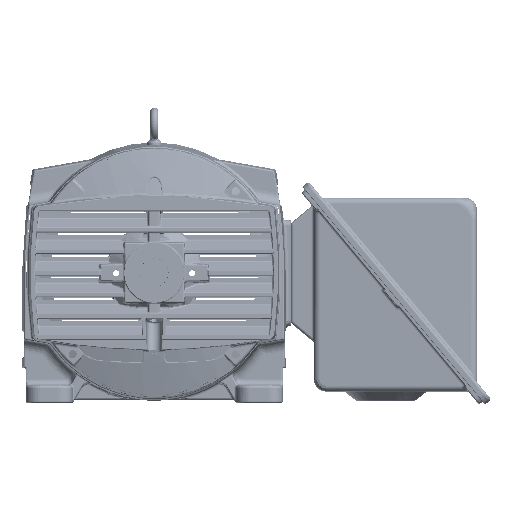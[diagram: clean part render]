
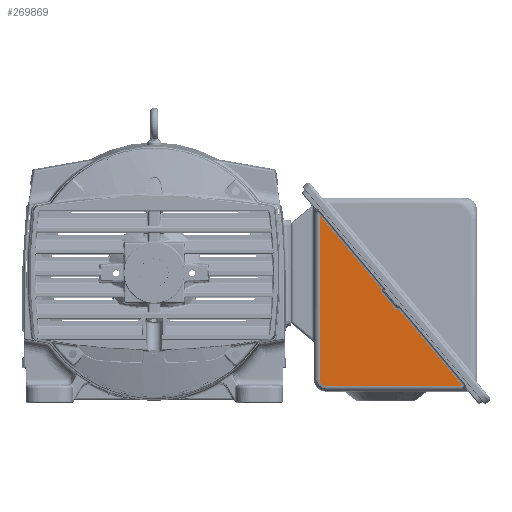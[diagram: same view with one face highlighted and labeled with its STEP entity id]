
A CAD part, top view. The second image highlights one B-rep face of the part: STEP entity #269869.
In plain terms, the highlighted planar face has unit normal (-0.02, -0.017, 1).
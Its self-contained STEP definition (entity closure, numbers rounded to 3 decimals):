
#262059=DIRECTION('',(-0.643,0.766,0.));
#262060=VECTOR('',#262059,8.138);
#262061=CARTESIAN_POINT('',(7.721,8.831,
7.924));
#262062=LINE('',#262061,#262060);
#262068=CARTESIAN_POINT('',(7.721,8.831,
7.924));
#262069=CARTESIAN_POINT('',(7.711,8.808,
7.923));
#262070=CARTESIAN_POINT('',(7.697,8.761,
7.922));
#262071=CARTESIAN_POINT('',(7.691,8.686,
7.921));
#262072=CARTESIAN_POINT('',(7.701,8.612,
7.92));
#262073=CARTESIAN_POINT('',(7.728,8.538,
7.919));
#262074=CARTESIAN_POINT('',(7.757,8.493,
7.919));
#262075=CARTESIAN_POINT('',(7.775,8.471,
7.919));
#262086=DIRECTION('',(0.643,-0.766,
0.));
#262087=VECTOR('',#262086,1.8);
#262088=CARTESIAN_POINT('',(7.775,8.471,
7.919));
#262089=LINE('',#262088,#262087);
#262099=CARTESIAN_POINT('',(8.932,7.092,
7.919));
#262100=CARTESIAN_POINT('',(8.95,7.07,
7.919));
#262101=CARTESIAN_POINT('',(8.99,7.033,
7.919));
#262102=CARTESIAN_POINT('',(9.058,6.994,
7.92));
#262103=CARTESIAN_POINT('',(9.13,6.971,
7.921));
#262104=CARTESIAN_POINT('',(9.204,6.964,
7.922));
#262105=CARTESIAN_POINT('',(9.253,6.97,
7.923));
#262106=CARTESIAN_POINT('',(9.278,6.976,
7.924));
#262239=DIRECTION('',(-0.643,0.766,0.));
#262240=VECTOR('',#262239,8.342);
#262241=CARTESIAN_POINT('',(14.64,0.585,
7.924));
#262242=LINE('',#262241,#262240);
#264848=DIRECTION('',(0.,-1.,-0.017));
#264849=VECTOR('',#264848,14.076);
#264850=CARTESIAN_POINT('',(2.49,15.065,
7.924));
#264851=LINE('',#264850,#264849);
#264902=CARTESIAN_POINT('',(2.49,0.992,
7.687));
#264903=CARTESIAN_POINT('',(2.49,0.954,
7.686));
#264904=CARTESIAN_POINT('',(2.498,0.88,
7.685));
#264905=CARTESIAN_POINT('',(2.536,0.773,
7.684));
#264906=CARTESIAN_POINT('',(2.596,0.677,
7.684));
#264907=CARTESIAN_POINT('',(2.676,0.597,
7.684));
#264908=CARTESIAN_POINT('',(2.771,0.537,
7.685));
#264909=CARTESIAN_POINT('',(2.879,0.5,
7.686));
#264910=CARTESIAN_POINT('',(2.952,0.492,
7.688));
#264911=CARTESIAN_POINT('',(2.99,0.492,
7.688));
#264938=DIRECTION('',(1.,0.,0.02));
#264939=VECTOR('',#264938,11.619);
#264940=CARTESIAN_POINT('',(2.99,0.492,
7.688));
#264941=LINE('',#264940,#264939);
#264942=CARTESIAN_POINT('',(14.606,0.492,
7.921));
#264963=CARTESIAN_POINT('',(14.64,0.585,
7.924));
#264964=CARTESIAN_POINT('',(14.633,0.571,
7.923));
#264965=CARTESIAN_POINT('',(14.619,0.54,
7.922));
#264966=CARTESIAN_POINT('',(14.61,0.508,
7.922));
#264967=CARTESIAN_POINT('',(14.606,0.492,
7.921));
#266261=VERTEX_POINT('',#264902);
#266262=VERTEX_POINT('',#264911);
#266401=CARTESIAN_POINT('',(7.775,8.471,
7.919));
#266402=CARTESIAN_POINT('',(8.932,7.092,
7.919));
#266403=VERTEX_POINT('',#266401);
#266404=VERTEX_POINT('',#266402);
#266409=VERTEX_POINT('',#264942);
#266502=VERTEX_POINT('',#262068);
#266504=VERTEX_POINT('',#262106);
#266506=VERTEX_POINT('',#264963);
#266512=CARTESIAN_POINT('',(2.49,15.065,
7.924));
#266513=VERTEX_POINT('',#266512);
#269846=CARTESIAN_POINT('',(15.958,-0.606,7.93));
#269847=DIRECTION('',(-0.02,-0.017,1.));
#269848=DIRECTION('',(-0.643,0.766,0.));
#269849=AXIS2_PLACEMENT_3D('',#269846,#269847,#269848);
#269850=PLANE('',#269849);
#269851=ORIENTED_EDGE('',*,*,#269836,.T.);
#269853=ORIENTED_EDGE('',*,*,#269852,.T.);
#269855=ORIENTED_EDGE('',*,*,#269854,.T.);
#269857=ORIENTED_EDGE('',*,*,#269856,.F.);
#269859=ORIENTED_EDGE('',*,*,#269858,.T.);
#269861=ORIENTED_EDGE('',*,*,#269860,.F.);
#269863=ORIENTED_EDGE('',*,*,#269862,.F.);
#269865=ORIENTED_EDGE('',*,*,#269864,.F.);
#269866=ORIENTED_EDGE('',*,*,#269776,.F.);
#269867=EDGE_LOOP('',(#269851,#269853,#269855,#269857,#269859,#269861,#269863,
#269865,#269866));
#269868=FACE_OUTER_BOUND('',#269867,.F.);
#269869=ADVANCED_FACE('',(#269868),#269850,.T.);
#262076=B_SPLINE_CURVE_WITH_KNOTS('',3,(#262068,#262069,#262070,#262071,#262072,
#262073,#262074,#262075),.UNSPECIFIED.,.F.,.F.,(4,1,1,1,1,4),(0.,0.2,0.4,
0.6,0.8,1.),.UNSPECIFIED.);
#262107=B_SPLINE_CURVE_WITH_KNOTS('',3,(#262099,#262100,#262101,#262102,#262103,
#262104,#262105,#262106),.UNSPECIFIED.,.F.,.F.,(4,1,1,1,1,4),(0.,0.2,0.4,
0.6,0.8,1.),.UNSPECIFIED.);
#264912=B_SPLINE_CURVE_WITH_KNOTS('',3,(#264902,#264903,#264904,#264905,#264906,
#264907,#264908,#264909,#264910,#264911),.UNSPECIFIED.,.F.,.F.,(4,1,1,1,1,1,1,
4),(0.,0.143,0.286,0.429,
0.571,0.714,0.857,1.),.UNSPECIFIED.);
#264968=B_SPLINE_CURVE_WITH_KNOTS('',3,(#264963,#264964,#264965,#264966,
#264967),.UNSPECIFIED.,.F.,.F.,(4,1,4),(0.,0.5,1.),.UNSPECIFIED.);
#269776=EDGE_CURVE('',#266502,#266513,#262062,.T.);
#269836=EDGE_CURVE('',#266502,#266403,#262076,.T.);
#269852=EDGE_CURVE('',#266403,#266404,#262089,.T.);
#269854=EDGE_CURVE('',#266404,#266504,#262107,.T.);
#269856=EDGE_CURVE('',#266506,#266504,#262242,.T.);
#269858=EDGE_CURVE('',#266506,#266409,#264968,.T.);
#269860=EDGE_CURVE('',#266262,#266409,#264941,.T.);
#269862=EDGE_CURVE('',#266261,#266262,#264912,.T.);
#269864=EDGE_CURVE('',#266513,#266261,#264851,.T.);
